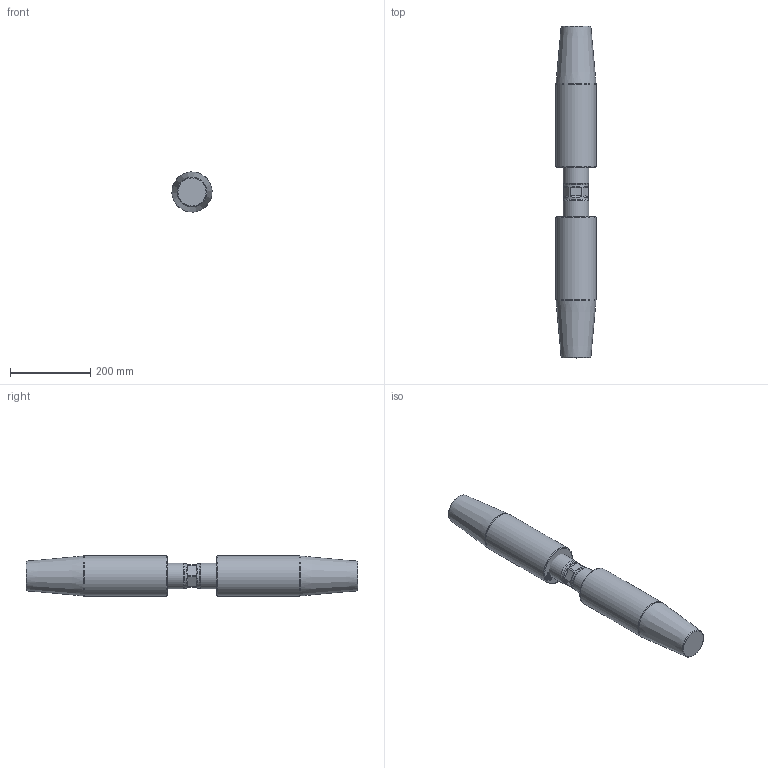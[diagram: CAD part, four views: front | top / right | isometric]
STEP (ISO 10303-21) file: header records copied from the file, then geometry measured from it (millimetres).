
FILE_DESCRIPTION(/* description */ (''),/* implementation_level */ '2;1');
FILE_NAME(/* name */ 'D:\Clienti\Redaelli (inventor)\CYA\STEP\Arrangement\CYA032 52 061 2.stp',/* time_stamp */ '2021-05-09T10:07:22+02:00',/* author */ ('fabri'),/* organization */ (''),/* preprocessor_version */ 'ST-DEVELOPER v16.13',/* originating_system */ 'Autodesk Inventor 2018',/* authorisation */ '');
FILE_SCHEMA (('AUTOMOTIVE_DESIGN { 1 0 10303 214 3 1 1 }'));
Length unit declared in the file: millimetre
Products named in the file (4): CYA012-54-062-0; TBF012-12-012-1; TBF012-13-012-0; TBF012-13-012-0_1
Assembly tree (3 placements, depth 2):
  CYA012-54-062-0
    TBF012-12-012-1
    TBF012-13-012-0
    TBF012-13-012-0_1
Bounding box: 99.93 x 828 x 99.93 mm (x, y, z)
Volume: 6172590.6 mm3; surface area: 314397.1 mm2
Topology: 3 solids, 3 shells, 515 faces, 1399 edges, 933 vertices
Faces by surface type: bspline 282, plane 204, cylinder 18, cone 7, torus 4
Full cylindrical faces by diameter (mm): 4.917 x1, 61 x1, 64 x2, 100 x2
Entity records: 18036 total; most frequent: CARTESIAN_POINT 6939, ORIENTED_EDGE 2762, EDGE_CURVE 1381, DIRECTION 1301, VERTEX_POINT 932, LINE 769, VECTOR 769, B_SPLINE_CURVE_WITH_KNOTS 584
